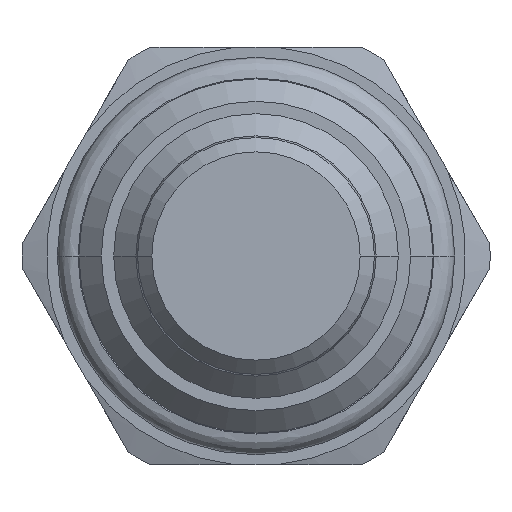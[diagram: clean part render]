
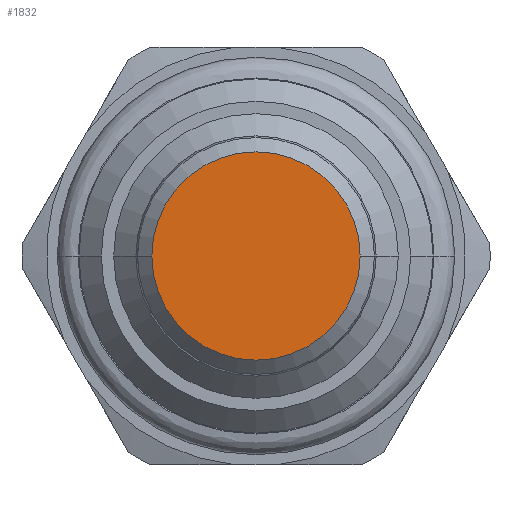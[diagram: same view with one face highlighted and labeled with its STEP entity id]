
A CAD part, front view. The second image highlights one B-rep face of the part: STEP entity #1832.
In plain terms, the highlighted planar face has unit normal (0, -1, 0).
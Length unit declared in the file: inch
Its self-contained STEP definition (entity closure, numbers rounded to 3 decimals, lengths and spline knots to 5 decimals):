
#105=CARTESIAN_POINT('',(0.,-1.091,0.));
#106=DIRECTION('',(0.,1.,0.));
#107=DIRECTION('',(-1.,0.,0.));
#108=AXIS2_PLACEMENT_3D('',#105,#106,#107);
#115=CARTESIAN_POINT('',(0.,-1.091,0.));
#116=DIRECTION('',(0.,1.,0.));
#117=DIRECTION('',(1.,0.,0.));
#118=AXIS2_PLACEMENT_3D('',#115,#116,#117);
#1393=CARTESIAN_POINT('',(-0.2185,-1.091,0.));
#1394=CARTESIAN_POINT('',(0.2185,-1.091,0.));
#1395=VERTEX_POINT('',#1393);
#1396=VERTEX_POINT('',#1394);
#1822=CARTESIAN_POINT('',(0.,-1.091,0.));
#1823=DIRECTION('',(0.,1.,0.));
#1824=DIRECTION('',(1.,0.,0.));
#1825=AXIS2_PLACEMENT_3D('',#1822,#1823,#1824);
#1826=PLANE('',#1825);
#1828=ORIENTED_EDGE('',*,*,#1827,.T.);
#1829=ORIENTED_EDGE('',*,*,#1812,.T.);
#1830=EDGE_LOOP('',(#1828,#1829));
#1831=FACE_OUTER_BOUND('',#1830,.F.);
#1832=ADVANCED_FACE('',(#1831),#1826,.F.);
#109=CIRCLE('',#108,0.2185);
#119=CIRCLE('',#118,0.2185);
#1812=EDGE_CURVE('',#1395,#1396,#109,.T.);
#1827=EDGE_CURVE('',#1396,#1395,#119,.T.);
